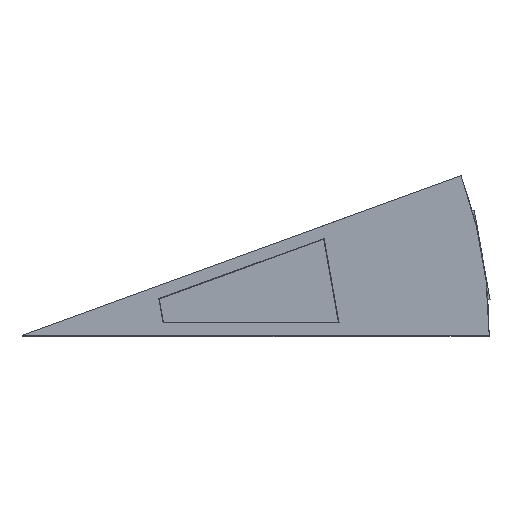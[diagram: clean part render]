
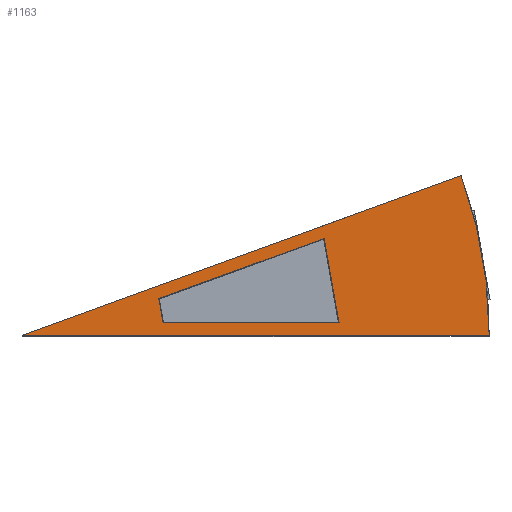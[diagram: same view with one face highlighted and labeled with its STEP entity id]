
A CAD part, top view. The second image highlights one B-rep face of the part: STEP entity #1163.
In plain terms, the highlighted planar face has unit normal (0, 0, 1).
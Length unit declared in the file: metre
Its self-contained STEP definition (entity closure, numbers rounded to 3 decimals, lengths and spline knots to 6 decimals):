
#103 = PLANE('',#104);
#104 = AXIS2_PLACEMENT_3D('',#105,#106,#107);
#105 = CARTESIAN_POINT('',(0.,0.,
    -4.192312));
#106 = DIRECTION('',(-0.,-1.,-0.));
#107 = DIRECTION('',(0.,0.,-1.));
#129 = PLANE('',#130);
#130 = AXIS2_PLACEMENT_3D('',#131,#132,#133);
#131 = CARTESIAN_POINT('',(0.,0.,
    -4.192312));
#132 = DIRECTION('',(0.342,-0.94,-0.));
#133 = DIRECTION('',(0.,0.,-1.));
#247 = VERTEX_POINT('',#248);
#248 = CARTESIAN_POINT('',(21.592061,0.,
    13.511291));
#262 = CYLINDRICAL_SURFACE('',#263,21.592061);
#263 = AXIS2_PLACEMENT_3D('',#264,#265,#266);
#264 = CARTESIAN_POINT('',(0.,0.,-15.6));
#265 = DIRECTION('',(0.,0.,1.));
#266 = DIRECTION('',(1.,0.,-0.));
#274 = EDGE_CURVE('',#247,#275,#277,.T.);
#275 = VERTEX_POINT('',#276);
#276 = CARTESIAN_POINT('',(0.,0.,13.511291));
#277 = SURFACE_CURVE('',#278,(#282,#289),.PCURVE_S1.);
#278 = LINE('',#279,#280);
#279 = CARTESIAN_POINT('',(19.292061,0.,
    13.511291));
#280 = VECTOR('',#281,1.);
#281 = DIRECTION('',(-1.,0.,0.));
#282 = PCURVE('',#103,#283);
#283 = DEFINITIONAL_REPRESENTATION('',(#284),#288);
#284 = LINE('',#285,#286);
#285 = CARTESIAN_POINT('',(-17.704,19.292));
#286 = VECTOR('',#287,1.);
#287 = DIRECTION('',(0.,-1.));
#288 = ( GEOMETRIC_REPRESENTATION_CONTEXT(2) 
PARAMETRIC_REPRESENTATION_CONTEXT() REPRESENTATION_CONTEXT('2D SPACE',''
  ) );
#289 = PCURVE('',#290,#295);
#290 = PLANE('',#291);
#291 = AXIS2_PLACEMENT_3D('',#292,#293,#294);
#292 = CARTESIAN_POINT('',(0.,0.,13.511291));
#293 = DIRECTION('',(0.,0.,1.));
#294 = DIRECTION('',(1.,0.,-0.));
#295 = DEFINITIONAL_REPRESENTATION('',(#296),#300);
#296 = LINE('',#297,#298);
#297 = CARTESIAN_POINT('',(19.292,0.));
#298 = VECTOR('',#299,1.);
#299 = DIRECTION('',(-1.,0.));
#300 = ( GEOMETRIC_REPRESENTATION_CONTEXT(2) 
PARAMETRIC_REPRESENTATION_CONTEXT() REPRESENTATION_CONTEXT('2D SPACE',''
  ) );
#515 = VERTEX_POINT('',#516);
#516 = CARTESIAN_POINT('',(20.289901,7.38492,
    13.511291));
#537 = EDGE_CURVE('',#515,#275,#538,.T.);
#538 = SURFACE_CURVE('',#539,(#543,#550),.PCURVE_S1.);
#539 = LINE('',#540,#541);
#540 = CARTESIAN_POINT('',(18.128608,6.598274,
    13.511291));
#541 = VECTOR('',#542,1.);
#542 = DIRECTION('',(-0.94,-0.342,0.));
#543 = PCURVE('',#129,#544);
#544 = DEFINITIONAL_REPRESENTATION('',(#545),#549);
#545 = LINE('',#546,#547);
#546 = CARTESIAN_POINT('',(-17.704,19.292));
#547 = VECTOR('',#548,1.);
#548 = DIRECTION('',(0.,-1.));
#549 = ( GEOMETRIC_REPRESENTATION_CONTEXT(2) 
PARAMETRIC_REPRESENTATION_CONTEXT() REPRESENTATION_CONTEXT('2D SPACE',''
  ) );
#550 = PCURVE('',#290,#551);
#551 = DEFINITIONAL_REPRESENTATION('',(#552),#556);
#552 = LINE('',#553,#554);
#553 = CARTESIAN_POINT('',(18.129,6.598));
#554 = VECTOR('',#555,1.);
#555 = DIRECTION('',(-0.94,-0.342));
#556 = ( GEOMETRIC_REPRESENTATION_CONTEXT(2) 
PARAMETRIC_REPRESENTATION_CONTEXT() REPRESENTATION_CONTEXT('2D SPACE',''
  ) );
#1163 = ADVANCED_FACE('',(#1164,#1190),#290,.T.);
#1164 = FACE_BOUND('',#1165,.T.);
#1165 = EDGE_LOOP('',(#1166,#1188,#1189));
#1166 = ORIENTED_EDGE('',*,*,#1167,.T.);
#1167 = EDGE_CURVE('',#247,#515,#1168,.T.);
#1168 = SURFACE_CURVE('',#1169,(#1174,#1181),.PCURVE_S1.);
#1169 = CIRCLE('',#1170,21.592061);
#1170 = AXIS2_PLACEMENT_3D('',#1171,#1172,#1173);
#1171 = CARTESIAN_POINT('',(0.,0.,13.511291));
#1172 = DIRECTION('',(0.,0.,1.));
#1173 = DIRECTION('',(1.,0.,-0.));
#1174 = PCURVE('',#290,#1175);
#1175 = DEFINITIONAL_REPRESENTATION('',(#1176),#1180);
#1176 = CIRCLE('',#1177,21.592061);
#1177 = AXIS2_PLACEMENT_2D('',#1178,#1179);
#1178 = CARTESIAN_POINT('',(0.,0.));
#1179 = DIRECTION('',(1.,0.));
#1180 = ( GEOMETRIC_REPRESENTATION_CONTEXT(2) 
PARAMETRIC_REPRESENTATION_CONTEXT() REPRESENTATION_CONTEXT('2D SPACE',''
  ) );
#1181 = PCURVE('',#262,#1182);
#1182 = DEFINITIONAL_REPRESENTATION('',(#1183),#1187);
#1183 = LINE('',#1184,#1185);
#1184 = CARTESIAN_POINT('',(0.,29.111));
#1185 = VECTOR('',#1186,1.);
#1186 = DIRECTION('',(1.,0.));
#1187 = ( GEOMETRIC_REPRESENTATION_CONTEXT(2) 
PARAMETRIC_REPRESENTATION_CONTEXT() REPRESENTATION_CONTEXT('2D SPACE',''
  ) );
#1188 = ORIENTED_EDGE('',*,*,#537,.T.);
#1189 = ORIENTED_EDGE('',*,*,#274,.F.);
#1190 = FACE_BOUND('',#1191,.T.);
#1191 = EDGE_LOOP('',(#1192,#1222,#1250,#1278));
#1192 = ORIENTED_EDGE('',*,*,#1193,.F.);
#1193 = EDGE_CURVE('',#1194,#1196,#1198,.T.);
#1194 = VERTEX_POINT('',#1195);
#1195 = CARTESIAN_POINT('',(6.517606,0.5741,13.511291));
#1196 = VERTEX_POINT('',#1197);
#1197 = CARTESIAN_POINT('',(14.650606,0.5741,13.511291));
#1198 = SURFACE_CURVE('',#1199,(#1203,#1210),.PCURVE_S1.);
#1199 = LINE('',#1200,#1201);
#1200 = CARTESIAN_POINT('',(7.042043,0.5741,13.511291));
#1201 = VECTOR('',#1202,1.);
#1202 = DIRECTION('',(1.,0.,0.));
#1203 = PCURVE('',#290,#1204);
#1204 = DEFINITIONAL_REPRESENTATION('',(#1205),#1209);
#1205 = LINE('',#1206,#1207);
#1206 = CARTESIAN_POINT('',(7.042,0.574));
#1207 = VECTOR('',#1208,1.);
#1208 = DIRECTION('',(1.,0.));
#1209 = ( GEOMETRIC_REPRESENTATION_CONTEXT(2) 
PARAMETRIC_REPRESENTATION_CONTEXT() REPRESENTATION_CONTEXT('2D SPACE',''
  ) );
#1210 = PCURVE('',#1211,#1216);
#1211 = PLANE('',#1212);
#1212 = AXIS2_PLACEMENT_3D('',#1213,#1214,#1215);
#1213 = CARTESIAN_POINT('',(6.517606,0.5741,13.111291));
#1214 = DIRECTION('',(0.,1.,0.));
#1215 = DIRECTION('',(1.,0.,0.));
#1216 = DEFINITIONAL_REPRESENTATION('',(#1217),#1221);
#1217 = LINE('',#1218,#1219);
#1218 = CARTESIAN_POINT('',(0.524,-0.4));
#1219 = VECTOR('',#1220,1.);
#1220 = DIRECTION('',(1.,0.));
#1221 = ( GEOMETRIC_REPRESENTATION_CONTEXT(2) 
PARAMETRIC_REPRESENTATION_CONTEXT() REPRESENTATION_CONTEXT('2D SPACE',''
  ) );
#1222 = ORIENTED_EDGE('',*,*,#1223,.F.);
#1223 = EDGE_CURVE('',#1224,#1194,#1226,.T.);
#1224 = VERTEX_POINT('',#1225);
#1225 = CARTESIAN_POINT('',(6.3209,1.689675,13.511291
    ));
#1226 = SURFACE_CURVE('',#1227,(#1231,#1238),.PCURVE_S1.);
#1227 = LINE('',#1228,#1229);
#1228 = CARTESIAN_POINT('',(6.411967,1.173205,
    13.511291));
#1229 = VECTOR('',#1230,1.);
#1230 = DIRECTION('',(0.174,-0.985,0.));
#1231 = PCURVE('',#290,#1232);
#1232 = DEFINITIONAL_REPRESENTATION('',(#1233),#1237);
#1233 = LINE('',#1234,#1235);
#1234 = CARTESIAN_POINT('',(6.412,1.173));
#1235 = VECTOR('',#1236,1.);
#1236 = DIRECTION('',(0.174,-0.985));
#1237 = ( GEOMETRIC_REPRESENTATION_CONTEXT(2) 
PARAMETRIC_REPRESENTATION_CONTEXT() REPRESENTATION_CONTEXT('2D SPACE',''
  ) );
#1238 = PCURVE('',#1239,#1244);
#1239 = PLANE('',#1240);
#1240 = AXIS2_PLACEMENT_3D('',#1241,#1242,#1243);
#1241 = CARTESIAN_POINT('',(6.3209,1.689675,13.111291
    ));
#1242 = DIRECTION('',(0.985,0.174,0.));
#1243 = DIRECTION('',(0.174,-0.985,0.));
#1244 = DEFINITIONAL_REPRESENTATION('',(#1245),#1249);
#1245 = LINE('',#1246,#1247);
#1246 = CARTESIAN_POINT('',(0.524,-0.4));
#1247 = VECTOR('',#1248,1.);
#1248 = DIRECTION('',(1.,0.));
#1249 = ( GEOMETRIC_REPRESENTATION_CONTEXT(2) 
PARAMETRIC_REPRESENTATION_CONTEXT() REPRESENTATION_CONTEXT('2D SPACE',''
  ) );
#1250 = ORIENTED_EDGE('',*,*,#1251,.F.);
#1251 = EDGE_CURVE('',#1252,#1224,#1254,.T.);
#1252 = VERTEX_POINT('',#1253);
#1253 = CARTESIAN_POINT('',(13.96342,4.471325,
    13.511291));
#1254 = SURFACE_CURVE('',#1255,(#1259,#1266),.PCURVE_S1.);
#1255 = LINE('',#1256,#1257);
#1256 = CARTESIAN_POINT('',(13.263494,4.216572,
    13.511291));
#1257 = VECTOR('',#1258,1.);
#1258 = DIRECTION('',(-0.94,-0.342,0.));
#1259 = PCURVE('',#290,#1260);
#1260 = DEFINITIONAL_REPRESENTATION('',(#1261),#1265);
#1261 = LINE('',#1262,#1263);
#1262 = CARTESIAN_POINT('',(13.263,4.217));
#1263 = VECTOR('',#1264,1.);
#1264 = DIRECTION('',(-0.94,-0.342));
#1265 = ( GEOMETRIC_REPRESENTATION_CONTEXT(2) 
PARAMETRIC_REPRESENTATION_CONTEXT() REPRESENTATION_CONTEXT('2D SPACE',''
  ) );
#1266 = PCURVE('',#1267,#1272);
#1267 = PLANE('',#1268);
#1268 = AXIS2_PLACEMENT_3D('',#1269,#1270,#1271);
#1269 = CARTESIAN_POINT('',(13.96342,4.471325,
    13.111291));
#1270 = DIRECTION('',(0.342,-0.94,0.));
#1271 = DIRECTION('',(-0.94,-0.342,0.));
#1272 = DEFINITIONAL_REPRESENTATION('',(#1273),#1277);
#1273 = LINE('',#1274,#1275);
#1274 = CARTESIAN_POINT('',(0.745,-0.4));
#1275 = VECTOR('',#1276,1.);
#1276 = DIRECTION('',(1.,0.));
#1277 = ( GEOMETRIC_REPRESENTATION_CONTEXT(2) 
PARAMETRIC_REPRESENTATION_CONTEXT() REPRESENTATION_CONTEXT('2D SPACE',''
  ) );
#1278 = ORIENTED_EDGE('',*,*,#1279,.F.);
#1279 = EDGE_CURVE('',#1196,#1252,#1280,.T.);
#1280 = SURFACE_CURVE('',#1281,(#1285,#1292),.PCURVE_S1.);
#1281 = LINE('',#1282,#1283);
#1282 = CARTESIAN_POINT('',(14.521265,1.30763,
    13.511291));
#1283 = VECTOR('',#1284,1.);
#1284 = DIRECTION('',(-0.174,0.985,0.));
#1285 = PCURVE('',#290,#1286);
#1286 = DEFINITIONAL_REPRESENTATION('',(#1287),#1291);
#1287 = LINE('',#1288,#1289);
#1288 = CARTESIAN_POINT('',(14.521,1.308));
#1289 = VECTOR('',#1290,1.);
#1290 = DIRECTION('',(-0.174,0.985));
#1291 = ( GEOMETRIC_REPRESENTATION_CONTEXT(2) 
PARAMETRIC_REPRESENTATION_CONTEXT() REPRESENTATION_CONTEXT('2D SPACE',''
  ) );
#1292 = PCURVE('',#1293,#1298);
#1293 = PLANE('',#1294);
#1294 = AXIS2_PLACEMENT_3D('',#1295,#1296,#1297);
#1295 = CARTESIAN_POINT('',(14.650606,0.5741,13.111291));
#1296 = DIRECTION('',(-0.985,-0.174,0.));
#1297 = DIRECTION('',(-0.174,0.985,0.));
#1298 = DEFINITIONAL_REPRESENTATION('',(#1299),#1303);
#1299 = LINE('',#1300,#1301);
#1300 = CARTESIAN_POINT('',(0.745,-0.4));
#1301 = VECTOR('',#1302,1.);
#1302 = DIRECTION('',(1.,0.));
#1303 = ( GEOMETRIC_REPRESENTATION_CONTEXT(2) 
PARAMETRIC_REPRESENTATION_CONTEXT() REPRESENTATION_CONTEXT('2D SPACE',''
  ) );
